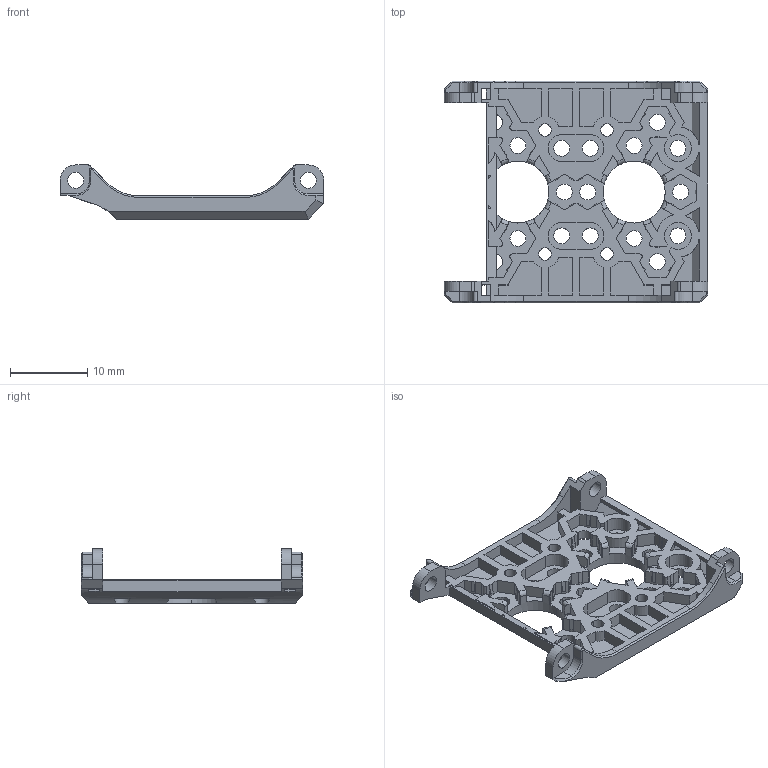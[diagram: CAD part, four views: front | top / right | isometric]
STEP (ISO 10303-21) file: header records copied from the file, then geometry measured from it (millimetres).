
FILE_DESCRIPTION (( 'STEP AP214' ), '1' );
FILE_NAME ('Palm_Joint1.STEP', '2026-09-16T05:56:37', ( '' ), ( '' ), 'SwSTEP 2.0', 'SolidWorks 2024', '' );
FILE_SCHEMA (( 'AUTOMOTIVE_DESIGN' ));
Length unit declared in the file: millimetre
Products named in the file (2): Palm_Joint1; 侧摆底板
Assembly tree (1 placements, depth 2):
  Palm_Joint1
    侧摆底板
Bounding box: 34 x 28.6 x 7 mm (x, y, z)
Volume: 1475.4 mm3; surface area: 2785.8 mm2
Topology: 1 solids, 1 shells, 581 faces, 1629 edges, 1051 vertices
Faces by surface type: plane 442, cylinder 107, cone 16, torus 16
Entity records: 18726 total; most frequent: CARTESIAN_POINT 3457, ORIENTED_EDGE 3258, DIRECTION 3049, EDGE_CURVE 1629, VECTOR 1287, LINE 1287, VERTEX_POINT 1051, AXIS2_PLACEMENT_3D 881
